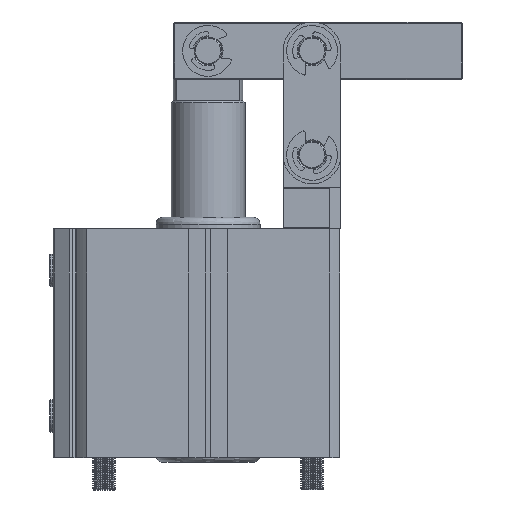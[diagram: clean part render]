
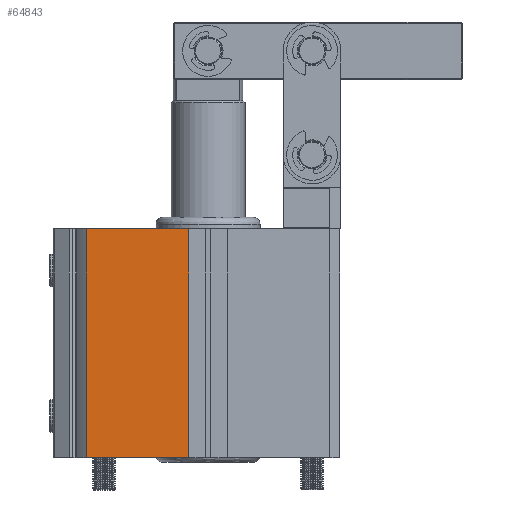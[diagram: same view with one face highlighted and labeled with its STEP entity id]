
A CAD part, front view. The second image highlights one B-rep face of the part: STEP entity #64843.
In plain terms, the highlighted planar face has unit normal (0, -1, 0).
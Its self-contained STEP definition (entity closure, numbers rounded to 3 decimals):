
#59461 = PLANE('',#59462);
#59462 = AXIS2_PLACEMENT_3D('',#59463,#59464,#59465);
#59463 = CARTESIAN_POINT('',(-106.07,5.589,49.5));
#59464 = DIRECTION('',(0.,0.,1.));
#59465 = DIRECTION('',(1.,0.,-0.));
#60264 = PLANE('',#60265);
#60265 = AXIS2_PLACEMENT_3D('',#60266,#60267,#60268);
#60266 = CARTESIAN_POINT('',(-106.07,5.589,-49.5));
#60267 = DIRECTION('',(0.,0.,1.));
#60268 = DIRECTION('',(1.,0.,-0.));
#61270 = PLANE('',#61271);
#61271 = AXIS2_PLACEMENT_3D('',#61272,#61273,#61274);
#61272 = CARTESIAN_POINT('',(-48.32,-60.872,49.5));
#61273 = DIRECTION('',(-1.,0.,0.));
#61274 = DIRECTION('',(0.,0.,1.));
#62784 = VERTEX_POINT('',#62785);
#62785 = CARTESIAN_POINT('',(-48.32,-60.872,49.5));
#62806 = EDGE_CURVE('',#62784,#62807,#62809,.T.);
#62807 = VERTEX_POINT('',#62808);
#62808 = CARTESIAN_POINT('',(-48.32,-60.872,-49.5));
#62809 = SURFACE_CURVE('',#62810,(#62814,#62821),.PCURVE_S1.);
#62810 = LINE('',#62811,#62812);
#62811 = CARTESIAN_POINT('',(-48.32,-60.872,49.5));
#62812 = VECTOR('',#62813,1.);
#62813 = DIRECTION('',(-0.,-0.,-1.));
#62814 = PCURVE('',#61270,#62815);
#62815 = DEFINITIONAL_REPRESENTATION('',(#62816),#62820);
#62816 = LINE('',#62817,#62818);
#62817 = CARTESIAN_POINT('',(0.,0.));
#62818 = VECTOR('',#62819,1.);
#62819 = DIRECTION('',(-1.,0.));
#62820 = ( GEOMETRIC_REPRESENTATION_CONTEXT(2) 
PARAMETRIC_REPRESENTATION_CONTEXT() REPRESENTATION_CONTEXT('2D SPACE',''
  ) );
#62821 = PCURVE('',#62822,#62827);
#62822 = PLANE('',#62823);
#62823 = AXIS2_PLACEMENT_3D('',#62824,#62825,#62826);
#62824 = CARTESIAN_POINT('',(-48.32,-60.872,49.5));
#62825 = DIRECTION('',(0.,1.,-0.));
#62826 = DIRECTION('',(0.,0.,1.));
#62827 = DEFINITIONAL_REPRESENTATION('',(#62828),#62832);
#62828 = LINE('',#62829,#62830);
#62829 = CARTESIAN_POINT('',(0.,0.));
#62830 = VECTOR('',#62831,1.);
#62831 = DIRECTION('',(-1.,0.));
#62832 = ( GEOMETRIC_REPRESENTATION_CONTEXT(2) 
PARAMETRIC_REPRESENTATION_CONTEXT() REPRESENTATION_CONTEXT('2D SPACE',''
  ) );
#64716 = CYLINDRICAL_SURFACE('',#64717,50.);
#64717 = AXIS2_PLACEMENT_3D('',#64718,#64719,#64720);
#64718 = CARTESIAN_POINT('',(-59.57,-23.372,49.5));
#64719 = DIRECTION('',(-0.,-0.,-1.));
#64720 = DIRECTION('',(-1.,0.,0.));
#64775 = VERTEX_POINT('',#64776);
#64776 = CARTESIAN_POINT('',(-92.641,-60.872,49.5));
#64800 = VERTEX_POINT('',#64801);
#64801 = CARTESIAN_POINT('',(-92.641,-60.872,-49.5));
#64823 = EDGE_CURVE('',#64800,#64775,#64824,.T.);
#64824 = SURFACE_CURVE('',#64825,(#64829,#64836),.PCURVE_S1.);
#64825 = LINE('',#64826,#64827);
#64826 = CARTESIAN_POINT('',(-92.641,-60.872,49.5));
#64827 = VECTOR('',#64828,1.);
#64828 = DIRECTION('',(0.,0.,1.));
#64829 = PCURVE('',#64716,#64830);
#64830 = DEFINITIONAL_REPRESENTATION('',(#64831),#64835);
#64831 = LINE('',#64832,#64833);
#64832 = CARTESIAN_POINT('',(5.435,0.));
#64833 = VECTOR('',#64834,1.);
#64834 = DIRECTION('',(0.,-1.));
#64835 = ( GEOMETRIC_REPRESENTATION_CONTEXT(2) 
PARAMETRIC_REPRESENTATION_CONTEXT() REPRESENTATION_CONTEXT('2D SPACE',''
  ) );
#64836 = PCURVE('',#62822,#64837);
#64837 = DEFINITIONAL_REPRESENTATION('',(#64838),#64842);
#64838 = LINE('',#64839,#64840);
#64839 = CARTESIAN_POINT('',(0.,-44.322));
#64840 = VECTOR('',#64841,1.);
#64841 = DIRECTION('',(1.,0.));
#64842 = ( GEOMETRIC_REPRESENTATION_CONTEXT(2) 
PARAMETRIC_REPRESENTATION_CONTEXT() REPRESENTATION_CONTEXT('2D SPACE',''
  ) );
#64843 = ADVANCED_FACE('',(#64844),#62822,.F.);
#64844 = FACE_BOUND('',#64845,.T.);
#64845 = EDGE_LOOP('',(#64846,#64847,#64868,#64869));
#64846 = ORIENTED_EDGE('',*,*,#62806,.F.);
#64847 = ORIENTED_EDGE('',*,*,#64848,.F.);
#64848 = EDGE_CURVE('',#64775,#62784,#64849,.T.);
#64849 = SURFACE_CURVE('',#64850,(#64854,#64861),.PCURVE_S1.);
#64850 = LINE('',#64851,#64852);
#64851 = CARTESIAN_POINT('',(-106.07,-60.872,49.5));
#64852 = VECTOR('',#64853,1.);
#64853 = DIRECTION('',(1.,0.,-0.));
#64854 = PCURVE('',#62822,#64855);
#64855 = DEFINITIONAL_REPRESENTATION('',(#64856),#64860);
#64856 = LINE('',#64857,#64858);
#64857 = CARTESIAN_POINT('',(0.,-57.75));
#64858 = VECTOR('',#64859,1.);
#64859 = DIRECTION('',(0.,1.));
#64860 = ( GEOMETRIC_REPRESENTATION_CONTEXT(2) 
PARAMETRIC_REPRESENTATION_CONTEXT() REPRESENTATION_CONTEXT('2D SPACE',''
  ) );
#64861 = PCURVE('',#59461,#64862);
#64862 = DEFINITIONAL_REPRESENTATION('',(#64863),#64867);
#64863 = LINE('',#64864,#64865);
#64864 = CARTESIAN_POINT('',(0.,-66.461));
#64865 = VECTOR('',#64866,1.);
#64866 = DIRECTION('',(1.,0.));
#64867 = ( GEOMETRIC_REPRESENTATION_CONTEXT(2) 
PARAMETRIC_REPRESENTATION_CONTEXT() REPRESENTATION_CONTEXT('2D SPACE',''
  ) );
#64868 = ORIENTED_EDGE('',*,*,#64823,.F.);
#64869 = ORIENTED_EDGE('',*,*,#64870,.T.);
#64870 = EDGE_CURVE('',#64800,#62807,#64871,.T.);
#64871 = SURFACE_CURVE('',#64872,(#64876,#64883),.PCURVE_S1.);
#64872 = LINE('',#64873,#64874);
#64873 = CARTESIAN_POINT('',(-106.07,-60.872,-49.5));
#64874 = VECTOR('',#64875,1.);
#64875 = DIRECTION('',(1.,0.,-0.));
#64876 = PCURVE('',#62822,#64877);
#64877 = DEFINITIONAL_REPRESENTATION('',(#64878),#64882);
#64878 = LINE('',#64879,#64880);
#64879 = CARTESIAN_POINT('',(-99.,-57.75));
#64880 = VECTOR('',#64881,1.);
#64881 = DIRECTION('',(0.,1.));
#64882 = ( GEOMETRIC_REPRESENTATION_CONTEXT(2) 
PARAMETRIC_REPRESENTATION_CONTEXT() REPRESENTATION_CONTEXT('2D SPACE',''
  ) );
#64883 = PCURVE('',#60264,#64884);
#64884 = DEFINITIONAL_REPRESENTATION('',(#64885),#64889);
#64885 = LINE('',#64886,#64887);
#64886 = CARTESIAN_POINT('',(0.,-66.461));
#64887 = VECTOR('',#64888,1.);
#64888 = DIRECTION('',(1.,0.));
#64889 = ( GEOMETRIC_REPRESENTATION_CONTEXT(2) 
PARAMETRIC_REPRESENTATION_CONTEXT() REPRESENTATION_CONTEXT('2D SPACE',''
  ) );
